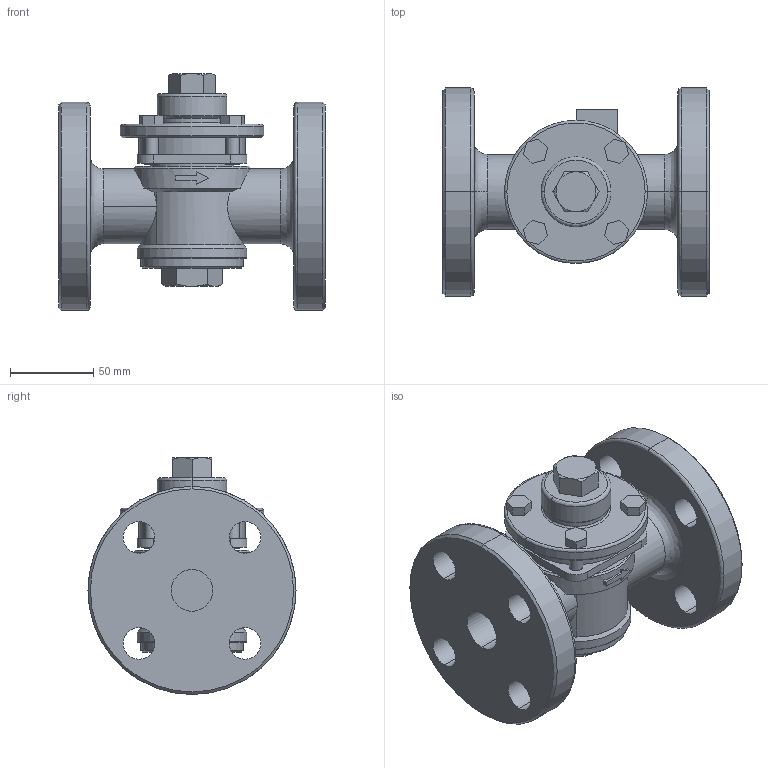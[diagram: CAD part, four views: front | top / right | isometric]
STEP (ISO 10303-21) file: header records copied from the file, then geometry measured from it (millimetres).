
FILE_DESCRIPTION( (''), '2;1');
FILE_NAME ('PC1027.12188.TSD-7F 25A_26012.stp','2025-07-31T15:39:39',(''),(''),'spGate 20.6.3 (****-****-****-****)','','');
FILE_SCHEMA (('AUTOMOTIVE_DESIGN'));
Length unit declared in the file: millimetre
Bounding box: 160 x 125 x 142.3 mm (x, y, z)
Volume: 862725.5 mm3; surface area: 114856.2 mm2
Topology: 1 solids, 1 shells, 201 faces, 508 edges, 328 vertices
Faces by surface type: plane 91, cylinder 69, bspline 41
Entity records: 10812 total; most frequent: CARTESIAN_POINT 2144, ORIENTED_EDGE 1016, DIRECTION 890, COLOUR_RGB 710, PRESENTATION_STYLE_ASSIGNMENT 710, STYLED_ITEM 710, EDGE_CURVE 508, DRAUGHTING_PRE_DEFINED_CURVE_FONT 508
